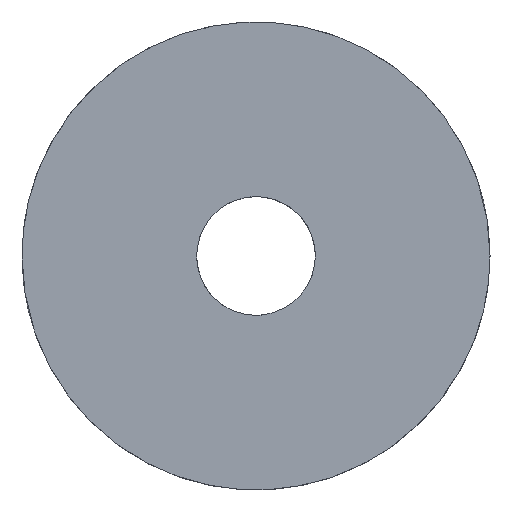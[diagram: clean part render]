
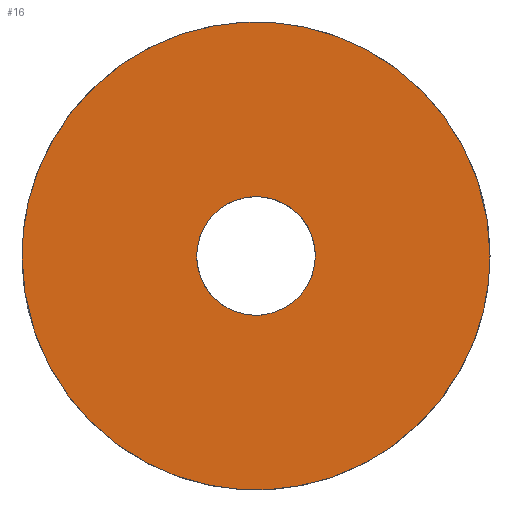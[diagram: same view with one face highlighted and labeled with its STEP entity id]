
A CAD part, top view. The second image highlights one B-rep face of the part: STEP entity #16.
In plain terms, the highlighted free-form (B-spline) face has degree [1, 1] with [2, 2] control points.
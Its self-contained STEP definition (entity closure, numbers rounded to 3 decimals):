
#16=ADVANCED_FACE('',(#26,#23),#199,.T.);
#23=FACE_BOUND('',#36,.T.);
#26=FACE_OUTER_BOUND('',#35,.T.);
#35=EDGE_LOOP('',(#47,#48));
#36=EDGE_LOOP('',(#49,#50));
#47=ORIENTED_EDGE('',*,*,#153,.T.);
#48=ORIENTED_EDGE('',*,*,#154,.T.);
#49=ORIENTED_EDGE('',*,*,#155,.T.);
#50=ORIENTED_EDGE('',*,*,#156,.T.);
#70=B_SPLINE_CURVE_WITH_KNOTS('',1,(#472,#473),.UNSPECIFIED.,.F.,.F.,(2,
2),(-29.845,0.),.UNSPECIFIED.);
#74=B_SPLINE_CURVE_WITH_KNOTS('',1,(#484,#485),.UNSPECIFIED.,.F.,.F.,(2,
2),(117.81,235.619),.UNSPECIFIED.);
#75=B_SPLINE_CURVE_WITH_KNOTS('',1,(#486,#487),.UNSPECIFIED.,.F.,.F.,(2,
2),(-59.69,-29.845),.UNSPECIFIED.);
#79=B_SPLINE_CURVE_WITH_KNOTS('',1,(#494,#495),.UNSPECIFIED.,.F.,.F.,(2,
2),(0.,117.81),.UNSPECIFIED.);
#89=PCURVE('',#199,#115);
#90=PCURVE('',#199,#116);
#91=PCURVE('',#199,#117);
#92=PCURVE('',#199,#118);
#96=PCURVE('',#193,#122);
#100=PCURVE('',#194,#126);
#101=PCURVE('',#195,#127);
#105=PCURVE('',#196,#131);
#115=DEFINITIONAL_REPRESENTATION('',(#173),#503);
#116=DEFINITIONAL_REPRESENTATION('',(#175),#503);
#117=DEFINITIONAL_REPRESENTATION('',(#177),#503);
#118=DEFINITIONAL_REPRESENTATION('',(#179),#503);
#122=DEFINITIONAL_REPRESENTATION('',(#70),#503);
#126=DEFINITIONAL_REPRESENTATION('',(#74),#503);
#127=DEFINITIONAL_REPRESENTATION('',(#75),#503);
#131=DEFINITIONAL_REPRESENTATION('',(#79),#503);
#140=SURFACE_CURVE('',#172,(#89,#105),.PCURVE_S1.);
#141=SURFACE_CURVE('',#174,(#90,#100),.PCURVE_S1.);
#142=SURFACE_CURVE('',#176,(#91,#101),.PCURVE_S1.);
#143=SURFACE_CURVE('',#178,(#92,#96),.PCURVE_S1.);
#153=EDGE_CURVE('',#187,#191,#140,.T.);
#154=EDGE_CURVE('',#191,#187,#141,.T.);
#155=EDGE_CURVE('',#188,#189,#142,.T.);
#156=EDGE_CURVE('',#189,#188,#143,.T.);
#172=(
BOUNDED_CURVE()
B_SPLINE_CURVE(2,(#422,#423,#424,#425,#426),.UNSPECIFIED.,.F.,.F.)
B_SPLINE_CURVE_WITH_KNOTS((3,2,3),(0.,58.905,117.81),
 .UNSPECIFIED.)
CURVE()
GEOMETRIC_REPRESENTATION_ITEM()
RATIONAL_B_SPLINE_CURVE((1.,0.707,1.,0.707,1.))
REPRESENTATION_ITEM('')
);
#173=(
BOUNDED_CURVE()
B_SPLINE_CURVE(2,(#427,#428,#429,#430,#431),.UNSPECIFIED.,.F.,.F.)
B_SPLINE_CURVE_WITH_KNOTS((3,2,3),(0.,58.905,117.81),
 .UNSPECIFIED.)
CURVE()
GEOMETRIC_REPRESENTATION_ITEM()
RATIONAL_B_SPLINE_CURVE((1.,0.707,1.,0.707,1.))
REPRESENTATION_ITEM('')
);
#174=(
BOUNDED_CURVE()
B_SPLINE_CURVE(2,(#432,#433,#434,#435,#436),.UNSPECIFIED.,.F.,.F.)
B_SPLINE_CURVE_WITH_KNOTS((3,2,3),(117.81,176.715,235.619),
 .UNSPECIFIED.)
CURVE()
GEOMETRIC_REPRESENTATION_ITEM()
RATIONAL_B_SPLINE_CURVE((1.,0.707,1.,0.707,1.))
REPRESENTATION_ITEM('')
);
#175=(
BOUNDED_CURVE()
B_SPLINE_CURVE(2,(#437,#438,#439,#440,#441),.UNSPECIFIED.,.F.,.F.)
B_SPLINE_CURVE_WITH_KNOTS((3,2,3),(117.81,176.715,235.619),
 .UNSPECIFIED.)
CURVE()
GEOMETRIC_REPRESENTATION_ITEM()
RATIONAL_B_SPLINE_CURVE((1.,0.707,1.,0.707,1.))
REPRESENTATION_ITEM('')
);
#176=(
BOUNDED_CURVE()
B_SPLINE_CURVE(2,(#442,#443,#444,#445,#446),.UNSPECIFIED.,.F.,.F.)
B_SPLINE_CURVE_WITH_KNOTS((3,2,3),(-59.69,-44.768,
-29.845),.UNSPECIFIED.)
CURVE()
GEOMETRIC_REPRESENTATION_ITEM()
RATIONAL_B_SPLINE_CURVE((1.,0.707,1.,0.707,1.))
REPRESENTATION_ITEM('')
);
#177=(
BOUNDED_CURVE()
B_SPLINE_CURVE(2,(#447,#448,#449,#450,#451),.UNSPECIFIED.,.F.,.F.)
B_SPLINE_CURVE_WITH_KNOTS((3,2,3),(-59.69,-44.768,
-29.845),.UNSPECIFIED.)
CURVE()
GEOMETRIC_REPRESENTATION_ITEM()
RATIONAL_B_SPLINE_CURVE((1.,0.707,1.,0.707,1.))
REPRESENTATION_ITEM('')
);
#178=(
BOUNDED_CURVE()
B_SPLINE_CURVE(2,(#452,#453,#454,#455,#456),.UNSPECIFIED.,.F.,.F.)
B_SPLINE_CURVE_WITH_KNOTS((3,2,3),(-29.845,-14.923,0.),
 .UNSPECIFIED.)
CURVE()
GEOMETRIC_REPRESENTATION_ITEM()
RATIONAL_B_SPLINE_CURVE((1.,0.707,1.,0.707,1.))
REPRESENTATION_ITEM('')
);
#179=(
BOUNDED_CURVE()
B_SPLINE_CURVE(2,(#457,#458,#459,#460,#461),.UNSPECIFIED.,.F.,.F.)
B_SPLINE_CURVE_WITH_KNOTS((3,2,3),(-29.845,-14.923,0.),
 .UNSPECIFIED.)
CURVE()
GEOMETRIC_REPRESENTATION_ITEM()
RATIONAL_B_SPLINE_CURVE((1.,0.707,1.,0.707,1.))
REPRESENTATION_ITEM('')
);
#187=VERTEX_POINT('',#349);
#188=VERTEX_POINT('',#350);
#189=VERTEX_POINT('',#351);
#191=VERTEX_POINT('',#353);
#193=(
BOUNDED_SURFACE()
B_SPLINE_SURFACE(2,1,((#306,#307),(#308,#309),(#310,#311),(#312,#313),(#314,
#315)),.UNSPECIFIED.,.F.,.F.,.F.)
B_SPLINE_SURFACE_WITH_KNOTS((3,2,3),(2,2),(0.,14.923,29.845),
(0.,10.),.UNSPECIFIED.)
GEOMETRIC_REPRESENTATION_ITEM()
RATIONAL_B_SPLINE_SURFACE(((1.,1.),(0.707,0.707),
(1.,1.),(0.707,0.707),(1.,1.)))
REPRESENTATION_ITEM('')
SURFACE()
);
#194=(
BOUNDED_SURFACE()
B_SPLINE_SURFACE(2,1,((#316,#317),(#318,#319),(#320,#321),(#322,#323),(#324,
#325)),.UNSPECIFIED.,.F.,.F.,.F.)
B_SPLINE_SURFACE_WITH_KNOTS((3,2,3),(2,2),(-235.619,-176.715,
-117.81),(0.,10.),.UNSPECIFIED.)
GEOMETRIC_REPRESENTATION_ITEM()
RATIONAL_B_SPLINE_SURFACE(((1.,1.),(0.707,0.707),
(1.,1.),(0.707,0.707),(1.,1.)))
REPRESENTATION_ITEM('')
SURFACE()
);
#195=(
BOUNDED_SURFACE()
B_SPLINE_SURFACE(2,1,((#326,#327),(#328,#329),(#330,#331),(#332,#333),(#334,
#335)),.UNSPECIFIED.,.F.,.F.,.F.)
B_SPLINE_SURFACE_WITH_KNOTS((3,2,3),(2,2),(29.845,44.768,
59.69),(0.,10.),.UNSPECIFIED.)
GEOMETRIC_REPRESENTATION_ITEM()
RATIONAL_B_SPLINE_SURFACE(((1.,1.),(0.707,0.707),
(1.,1.),(0.707,0.707),(1.,1.)))
REPRESENTATION_ITEM('')
SURFACE()
);
#196=(
BOUNDED_SURFACE()
B_SPLINE_SURFACE(2,1,((#336,#337),(#338,#339),(#340,#341),(#342,#343),(#344,
#345)),.UNSPECIFIED.,.F.,.F.,.F.)
B_SPLINE_SURFACE_WITH_KNOTS((3,2,3),(2,2),(-117.81,-58.905,
0.),(0.,10.),.UNSPECIFIED.)
GEOMETRIC_REPRESENTATION_ITEM()
RATIONAL_B_SPLINE_SURFACE(((1.,1.),(0.707,0.707),
(1.,1.),(0.707,0.707),(1.,1.)))
REPRESENTATION_ITEM('')
SURFACE()
);
#199=B_SPLINE_SURFACE_WITH_KNOTS('',1,1,((#302,#303),(#304,#305)),
 .UNSPECIFIED.,.F.,.F.,.F.,(2,2),(2,2),(-46.875,46.875),(-9.375,84.375),
 .UNSPECIFIED.);
#302=CARTESIAN_POINT('',(46.875,-46.875,-10.));
#303=CARTESIAN_POINT('',(-46.875,-46.875,-10.));
#304=CARTESIAN_POINT('',(46.875,46.875,-10.));
#305=CARTESIAN_POINT('',(-46.875,46.875,-10.));
#306=CARTESIAN_POINT('',(9.5,0.,-10.));
#307=CARTESIAN_POINT('',(9.5,0.,-20.));
#308=CARTESIAN_POINT('',(9.5,9.5,-10.));
#309=CARTESIAN_POINT('',(9.5,9.5,-20.));
#310=CARTESIAN_POINT('',(0.,9.5,-10.));
#311=CARTESIAN_POINT('',(0.,9.5,-20.));
#312=CARTESIAN_POINT('',(-9.5,9.5,-10.));
#313=CARTESIAN_POINT('',(-9.5,9.5,-20.));
#314=CARTESIAN_POINT('',(-9.5,0.,-10.));
#315=CARTESIAN_POINT('',(-9.5,0.,-20.));
#316=CARTESIAN_POINT('',(37.5,0.,-10.));
#317=CARTESIAN_POINT('',(37.5,0.,-20.));
#318=CARTESIAN_POINT('',(37.5,-37.5,-10.));
#319=CARTESIAN_POINT('',(37.5,-37.5,-20.));
#320=CARTESIAN_POINT('',(0.,-37.5,-10.));
#321=CARTESIAN_POINT('',(0.,-37.5,-20.));
#322=CARTESIAN_POINT('',(-37.5,-37.5,-10.));
#323=CARTESIAN_POINT('',(-37.5,-37.5,-20.));
#324=CARTESIAN_POINT('',(-37.5,0.,-10.));
#325=CARTESIAN_POINT('',(-37.5,0.,-20.));
#326=CARTESIAN_POINT('',(-9.5,0.,-10.));
#327=CARTESIAN_POINT('',(-9.5,0.,-20.));
#328=CARTESIAN_POINT('',(-9.5,-9.5,-10.));
#329=CARTESIAN_POINT('',(-9.5,-9.5,-20.));
#330=CARTESIAN_POINT('',(0.,-9.5,-10.));
#331=CARTESIAN_POINT('',(0.,-9.5,-20.));
#332=CARTESIAN_POINT('',(9.5,-9.5,-10.));
#333=CARTESIAN_POINT('',(9.5,-9.5,-20.));
#334=CARTESIAN_POINT('',(9.5,0.,-10.));
#335=CARTESIAN_POINT('',(9.5,0.,-20.));
#336=CARTESIAN_POINT('',(-37.5,0.,-10.));
#337=CARTESIAN_POINT('',(-37.5,0.,-20.));
#338=CARTESIAN_POINT('',(-37.5,37.5,-10.));
#339=CARTESIAN_POINT('',(-37.5,37.5,-20.));
#340=CARTESIAN_POINT('',(0.,37.5,-10.));
#341=CARTESIAN_POINT('',(0.,37.5,-20.));
#342=CARTESIAN_POINT('',(37.5,37.5,-10.));
#343=CARTESIAN_POINT('',(37.5,37.5,-20.));
#344=CARTESIAN_POINT('',(37.5,0.,-10.));
#345=CARTESIAN_POINT('',(37.5,0.,-20.));
#349=CARTESIAN_POINT('',(37.5,0.,-10.));
#350=CARTESIAN_POINT('',(9.5,0.,-10.));
#351=CARTESIAN_POINT('',(-9.5,0.,-10.));
#353=CARTESIAN_POINT('',(-37.5,0.,-10.));
#422=CARTESIAN_POINT('',(37.5,0.,-10.));
#423=CARTESIAN_POINT('',(37.5,37.5,-10.));
#424=CARTESIAN_POINT('',(0.,37.5,-10.));
#425=CARTESIAN_POINT('',(-37.5,37.5,-10.));
#426=CARTESIAN_POINT('',(-37.5,0.,-10.));
#427=CARTESIAN_POINT('',(0.,0.));
#428=CARTESIAN_POINT('',(37.5,0.));
#429=CARTESIAN_POINT('',(37.5,37.5));
#430=CARTESIAN_POINT('',(37.5,75.));
#431=CARTESIAN_POINT('',(0.,75.));
#432=CARTESIAN_POINT('',(-37.5,0.,-10.));
#433=CARTESIAN_POINT('',(-37.5,-37.5,-10.));
#434=CARTESIAN_POINT('',(0.,-37.5,-10.));
#435=CARTESIAN_POINT('',(37.5,-37.5,-10.));
#436=CARTESIAN_POINT('',(37.5,0.,-10.));
#437=CARTESIAN_POINT('',(0.,75.));
#438=CARTESIAN_POINT('',(-37.5,75.));
#439=CARTESIAN_POINT('',(-37.5,37.5));
#440=CARTESIAN_POINT('',(-37.5,0.));
#441=CARTESIAN_POINT('',(0.,0.));
#442=CARTESIAN_POINT('',(9.5,0.,-10.));
#443=CARTESIAN_POINT('',(9.5,-9.5,-10.));
#444=CARTESIAN_POINT('',(0.,-9.5,-10.));
#445=CARTESIAN_POINT('',(-9.5,-9.5,-10.));
#446=CARTESIAN_POINT('',(-9.5,0.,-10.));
#447=CARTESIAN_POINT('',(0.,28.));
#448=CARTESIAN_POINT('',(-9.5,28.));
#449=CARTESIAN_POINT('',(-9.5,37.5));
#450=CARTESIAN_POINT('',(-9.5,47.));
#451=CARTESIAN_POINT('',(0.,47.));
#452=CARTESIAN_POINT('',(-9.5,0.,-10.));
#453=CARTESIAN_POINT('',(-9.5,9.5,-10.));
#454=CARTESIAN_POINT('',(0.,9.5,-10.));
#455=CARTESIAN_POINT('',(9.5,9.5,-10.));
#456=CARTESIAN_POINT('',(9.5,0.,-10.));
#457=CARTESIAN_POINT('',(0.,47.));
#458=CARTESIAN_POINT('',(9.5,47.));
#459=CARTESIAN_POINT('',(9.5,37.5));
#460=CARTESIAN_POINT('',(9.5,28.));
#461=CARTESIAN_POINT('',(0.,28.));
#472=CARTESIAN_POINT('',(29.845,0.));
#473=CARTESIAN_POINT('',(0.,0.));
#484=CARTESIAN_POINT('',(-117.81,0.));
#485=CARTESIAN_POINT('',(-235.619,0.));
#486=CARTESIAN_POINT('',(59.69,0.));
#487=CARTESIAN_POINT('',(29.845,0.));
#494=CARTESIAN_POINT('',(0.,0.));
#495=CARTESIAN_POINT('',(-117.81,0.));
#503=(
GEOMETRIC_REPRESENTATION_CONTEXT(2)
PARAMETRIC_REPRESENTATION_CONTEXT()
REPRESENTATION_CONTEXT('pspace','')
);
